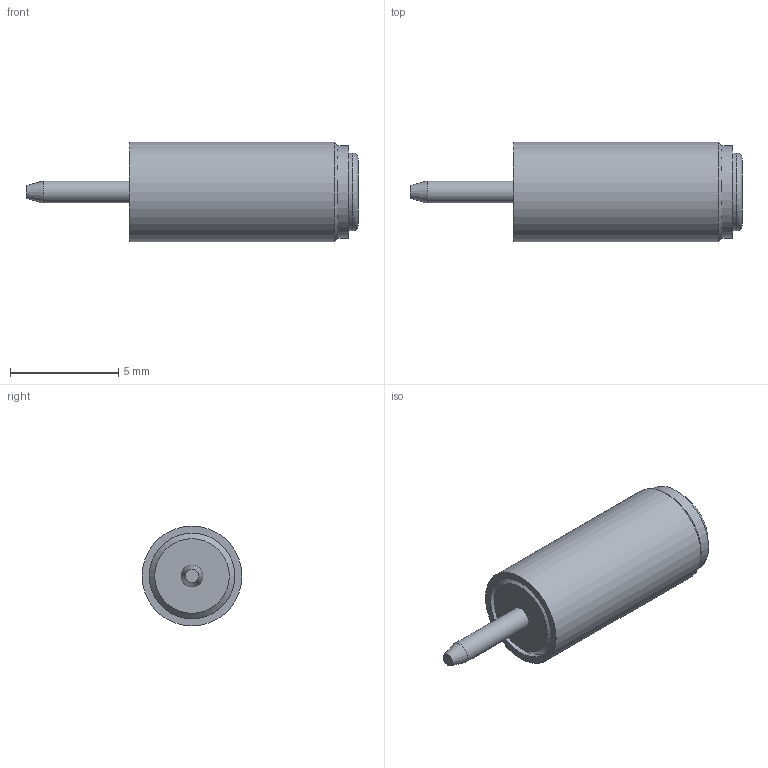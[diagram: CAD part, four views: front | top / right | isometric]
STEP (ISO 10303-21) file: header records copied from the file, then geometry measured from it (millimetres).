
FILE_DESCRIPTION(/* description */ (''),/* implementation_level */ '2;1');
FILE_NAME(/* name */ '\\Snap1\dwgs\Customer 3D Models\450\450-3279 Customer model.stp',/* time_stamp */ '2016-12-13T17:06:51+00:00',/* author */ ('paulk'),/* organization */ (''),/* preprocessor_version */ 'ST-DEVELOPER v15.2',/* originating_system */ 'Autodesk Inventor 2014',/* authorisation */ '');
FILE_SCHEMA (('CONFIG_CONTROL_DESIGN'));
Length unit declared in the file: millimetre
Products named in the file (1): 450-3279 Customer model
Bounding box: 15.37 x 4.62 x 4.62 mm (x, y, z)
Volume: 126.6 mm3; surface area: 274.8 mm2
Topology: 1 solids, 1 shells, 17 faces, 29 edges, 17 vertices
Faces by surface type: cylinder 6, plane 5, cone 4, torus 2
Full cylindrical faces by diameter (mm): 1.016 x1, 2.642 x1, 3.607 x1, 3.962 x1, 4.267 x1, 4.623 x1
Entity records: 368 total; most frequent: DIRECTION 68, CARTESIAN_POINT 50, AXIS2_PLACEMENT_3D 34, EDGE_LOOP 32, ORIENTED_EDGE 32, FACE_BOUND 18, ADVANCED_FACE 17, CIRCLE 16
